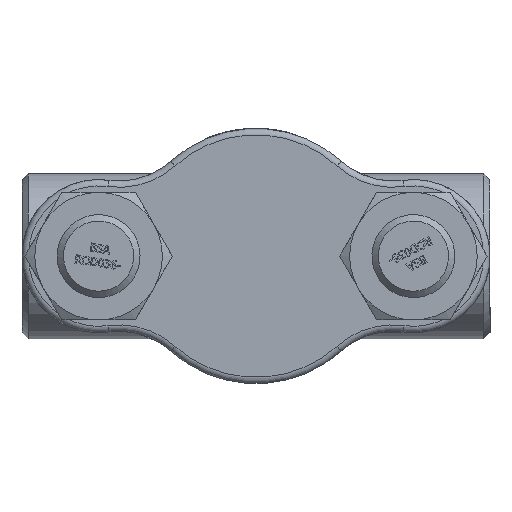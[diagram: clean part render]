
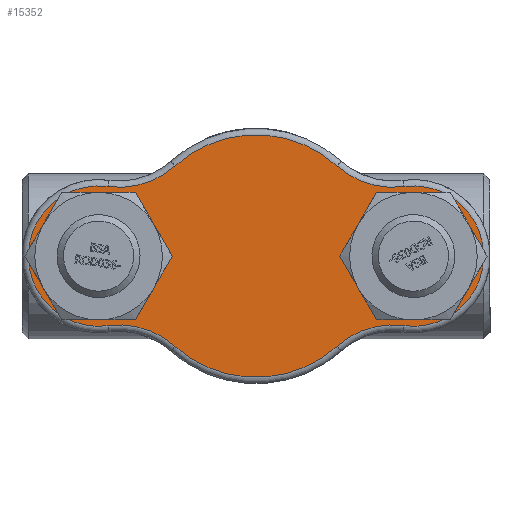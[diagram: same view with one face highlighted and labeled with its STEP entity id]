
A CAD part, front view. The second image highlights one B-rep face of the part: STEP entity #15352.
In plain terms, the highlighted planar face has unit normal (0, -1, 0) as drawn and (0, 0, -1) by its records, which use the part's own axes.
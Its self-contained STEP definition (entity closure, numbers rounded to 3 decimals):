
#4033=PLANE('',#16341);
#4413=FACE_BOUND('',#5408,.T.);
#4414=FACE_BOUND('',#5409,.T.);
#4507=FACE_OUTER_BOUND('',#5407,.T.);
#5407=EDGE_LOOP('',(#10555,#10556,#10557,#10558,#10559,#10560,#10561,#10562));
#5408=EDGE_LOOP('',(#10563));
#5409=EDGE_LOOP('',(#10564));
#6399=CIRCLE('',#16340,23.5);
#6400=CIRCLE('',#16342,33.);
#6401=CIRCLE('',#16343,39.);
#6402=CIRCLE('',#16344,57.);
#6403=CIRCLE('',#16345,39.);
#6404=CIRCLE('',#16346,33.);
#6405=CIRCLE('',#16347,39.);
#6406=CIRCLE('',#16348,57.);
#6407=CIRCLE('',#16349,39.);
#6408=CIRCLE('',#16350,23.5);
#6583=VERTEX_POINT('',#19698);
#6584=VERTEX_POINT('',#19701);
#6585=VERTEX_POINT('',#19702);
#6586=VERTEX_POINT('',#19704);
#6587=VERTEX_POINT('',#19706);
#6588=VERTEX_POINT('',#19708);
#6589=VERTEX_POINT('',#19710);
#6590=VERTEX_POINT('',#19712);
#6591=VERTEX_POINT('',#19714);
#6592=VERTEX_POINT('',#19717);
#8165=EDGE_CURVE('',#6583,#6583,#6399,.T.);
#8166=EDGE_CURVE('',#6584,#6585,#6400,.T.);
#8167=EDGE_CURVE('',#6586,#6584,#6401,.T.);
#8168=EDGE_CURVE('',#6587,#6586,#6402,.T.);
#8169=EDGE_CURVE('',#6588,#6587,#6403,.T.);
#8170=EDGE_CURVE('',#6589,#6588,#6404,.T.);
#8171=EDGE_CURVE('',#6590,#6589,#6405,.T.);
#8172=EDGE_CURVE('',#6591,#6590,#6406,.T.);
#8173=EDGE_CURVE('',#6585,#6591,#6407,.T.);
#8174=EDGE_CURVE('',#6592,#6592,#6408,.T.);
#10555=ORIENTED_EDGE('',*,*,#8166,.F.);
#10556=ORIENTED_EDGE('',*,*,#8167,.F.);
#10557=ORIENTED_EDGE('',*,*,#8168,.F.);
#10558=ORIENTED_EDGE('',*,*,#8169,.F.);
#10559=ORIENTED_EDGE('',*,*,#8170,.F.);
#10560=ORIENTED_EDGE('',*,*,#8171,.F.);
#10561=ORIENTED_EDGE('',*,*,#8172,.F.);
#10562=ORIENTED_EDGE('',*,*,#8173,.F.);
#10563=ORIENTED_EDGE('',*,*,#8174,.F.);
#10564=ORIENTED_EDGE('',*,*,#8165,.F.);
#15352=ADVANCED_FACE('',(#4507,#4413,#4414),#4033,.F.);
#16340=AXIS2_PLACEMENT_3D('',#19699,#17040,#17041);
#16341=AXIS2_PLACEMENT_3D('',#19700,#17042,#17043);
#16342=AXIS2_PLACEMENT_3D('',#19703,#17044,#17045);
#16343=AXIS2_PLACEMENT_3D('',#19705,#17046,#17047);
#16344=AXIS2_PLACEMENT_3D('',#19707,#17048,#17049);
#16345=AXIS2_PLACEMENT_3D('',#19709,#17050,#17051);
#16346=AXIS2_PLACEMENT_3D('',#19711,#17052,#17053);
#16347=AXIS2_PLACEMENT_3D('',#19713,#17054,#17055);
#16348=AXIS2_PLACEMENT_3D('',#19715,#17056,#17057);
#16349=AXIS2_PLACEMENT_3D('',#19716,#17058,#17059);
#16350=AXIS2_PLACEMENT_3D('',#19718,#17060,#17061);
#17040=DIRECTION('center_axis',(0.,0.,-1.));
#17041=DIRECTION('ref_axis',(1.,0.,0.));
#17042=DIRECTION('center_axis',(0.,0.,1.));
#17043=DIRECTION('ref_axis',(1.,0.,0.));
#17044=DIRECTION('center_axis',(0.,0.,1.));
#17045=DIRECTION('ref_axis',(-1.,0.,0.));
#17046=DIRECTION('center_axis',(0.,0.,-1.));
#17047=DIRECTION('ref_axis',(0.294,-0.956,0.));
#17048=DIRECTION('center_axis',(0.,0.,1.));
#17049=DIRECTION('ref_axis',(0.,1.,0.));
#17050=DIRECTION('center_axis',(0.,0.,-1.));
#17051=DIRECTION('ref_axis',(-0.294,-0.956,0.));
#17052=DIRECTION('center_axis',(0.,0.,1.));
#17053=DIRECTION('ref_axis',(1.,0.,0.));
#17054=DIRECTION('center_axis',(0.,0.,-1.));
#17055=DIRECTION('ref_axis',(-0.294,0.956,0.));
#17056=DIRECTION('center_axis',(0.,0.,1.));
#17057=DIRECTION('ref_axis',(0.,-1.,0.));
#17058=DIRECTION('center_axis',(0.,0.,-1.));
#17059=DIRECTION('ref_axis',(0.294,0.956,0.));
#17060=DIRECTION('center_axis',(0.,0.,-1.));
#17061=DIRECTION('ref_axis',(1.,0.,0.));
#19698=CARTESIAN_POINT('',(50.5,0.,0.));
#19699=CARTESIAN_POINT('Origin',(74.,0.,0.));
#19700=CARTESIAN_POINT('Origin',(0.,0.,
0.));
#19701=CARTESIAN_POINT('',(-69.528,32.696,0.));
#19702=CARTESIAN_POINT('',(-69.528,-32.696,0.));
#19703=CARTESIAN_POINT('Origin',(-74.,0.,0.));
#19704=CARTESIAN_POINT('',(-38.144,42.356,0.));
#19705=CARTESIAN_POINT('Origin',(-64.243,71.336,0.));
#19706=CARTESIAN_POINT('',(38.144,42.356,0.));
#19707=CARTESIAN_POINT('Origin',(0.,0.,0.));
#19708=CARTESIAN_POINT('',(69.528,32.696,0.));
#19709=CARTESIAN_POINT('Origin',(64.243,71.336,0.));
#19710=CARTESIAN_POINT('',(69.528,-32.696,0.));
#19711=CARTESIAN_POINT('Origin',(74.,0.,0.));
#19712=CARTESIAN_POINT('',(38.144,-42.356,0.));
#19713=CARTESIAN_POINT('Origin',(64.243,-71.336,0.));
#19714=CARTESIAN_POINT('',(-38.144,-42.356,0.));
#19715=CARTESIAN_POINT('Origin',(0.,0.,0.));
#19716=CARTESIAN_POINT('Origin',(-64.243,-71.336,0.));
#19717=CARTESIAN_POINT('',(-97.5,0.,0.));
#19718=CARTESIAN_POINT('Origin',(-74.,0.,0.));
